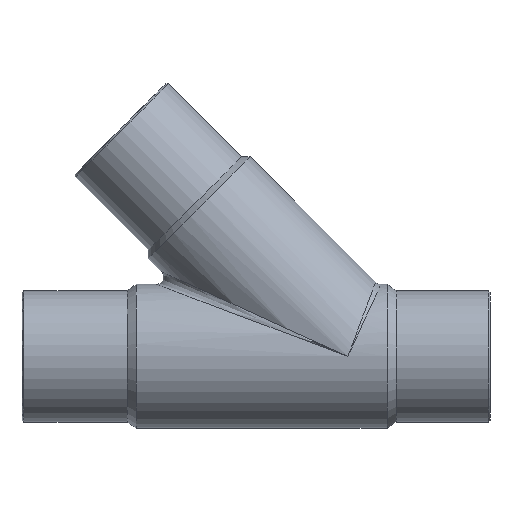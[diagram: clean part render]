
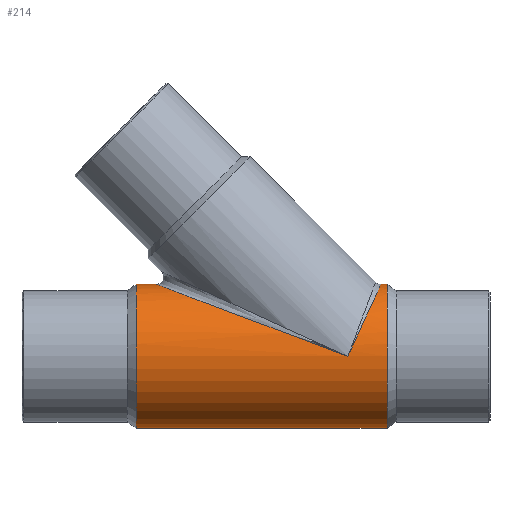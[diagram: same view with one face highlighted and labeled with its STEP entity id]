
A CAD part, front view. The second image highlights one B-rep face of the part: STEP entity #214.
In plain terms, the highlighted cylindrical face has radius 76.5 mm (diameter 153 mm), a full revolution.
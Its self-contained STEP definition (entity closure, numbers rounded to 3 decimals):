
#33=CIRCLE('',#250,76.5);
#34=CIRCLE('',#253,76.5);
#50=ORIENTED_EDGE('',*,*,#92,.T.);
#51=ORIENTED_EDGE('',*,*,#93,.T.);
#52=ORIENTED_EDGE('',*,*,#94,.T.);
#53=ORIENTED_EDGE('',*,*,#95,.F.);
#92=EDGE_CURVE('',#113,#113,#33,.T.);
#93=EDGE_CURVE('',#114,#115,#130,.T.);
#94=EDGE_CURVE('',#115,#114,#131,.T.);
#95=EDGE_CURVE('',#116,#116,#34,.T.);
#113=VERTEX_POINT('',#369);
#114=VERTEX_POINT('',#371);
#115=VERTEX_POINT('',#372);
#116=VERTEX_POINT('',#375);
#130=ELLIPSE('',#251,217.873,76.5);
#131=ELLIPSE('',#252,84.127,76.5);
#137=EDGE_LOOP('',(#50));
#138=EDGE_LOOP('',(#51,#52));
#139=EDGE_LOOP('',(#53));
#173=FACE_BOUND('',#137,.T.);
#174=FACE_BOUND('',#138,.T.);
#175=FACE_BOUND('',#139,.T.);
#207=CYLINDRICAL_SURFACE('',#249,76.5);
#214=ADVANCED_FACE('',(#173,#174,#175),#207,.T.);
#249=AXIS2_PLACEMENT_3D('',#367,#293,#294);
#250=AXIS2_PLACEMENT_3D('',#368,#295,#296);
#251=AXIS2_PLACEMENT_3D('',#370,#297,#298);
#252=AXIS2_PLACEMENT_3D('',#373,#299,#300);
#253=AXIS2_PLACEMENT_3D('',#374,#301,#302);
#293=DIRECTION('',(-1.,0.,0.));
#294=DIRECTION('',(0.,0.,1.));
#295=DIRECTION('',(-1.,0.,0.));
#296=DIRECTION('',(0.,0.,1.));
#297=DIRECTION('',(-0.351,0.,-0.936));
#298=DIRECTION('',(-0.936,0.,0.351));
#299=DIRECTION('',(0.909,0.,-0.416));
#300=DIRECTION('',(0.416,0.,0.909));
#301=DIRECTION('',(-1.,0.,0.));
#302=DIRECTION('',(0.,0.,1.));
#367=CARTESIAN_POINT('',(-60.,0.,0.));
#368=CARTESIAN_POINT('',(139.5,0.,0.));
#369=CARTESIAN_POINT('',(139.5,0.,76.5));
#370=CARTESIAN_POINT('',(97.813,0.,0.));
#371=CARTESIAN_POINT('',(97.813,-76.5,0.));
#372=CARTESIAN_POINT('',(97.813,76.5,0.));
#373=CARTESIAN_POINT('',(97.813,0.,0.));
#374=CARTESIAN_POINT('',(-127.5,0.,0.));
#375=CARTESIAN_POINT('',(-127.5,0.,76.5));
